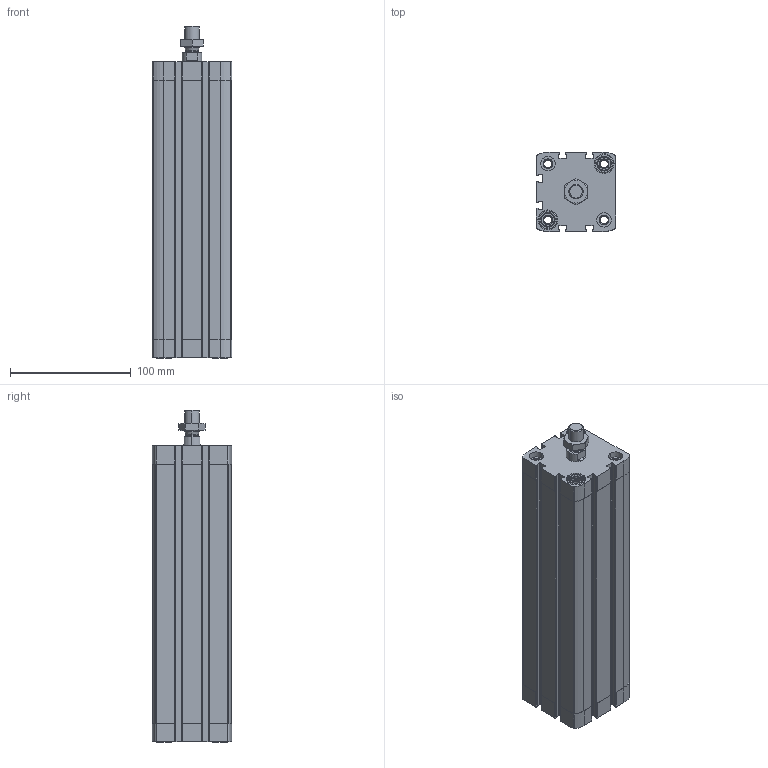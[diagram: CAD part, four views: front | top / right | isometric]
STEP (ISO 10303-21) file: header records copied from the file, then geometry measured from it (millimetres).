
FILE_DESCRIPTION (( 'STEP AP203' ), '1' );
FILE_NAME ('CCN50-200M.STEP', '2017-04-05T13:43:39', ( '' ), ( '' ), 'SwSTEP 2.0', 'SolidWorks 2016', '' );
FILE_SCHEMA (( 'CONFIG_CONTROL_DESIGN' ));
Length unit declared in the file: millimetre
Products named in the file (4): CCN-200----(Z); CCN-200_(KS); _DIN-439-B - M12x1.25(F); CCN50-200M
Assembly tree (3 placements, depth 2):
  CCN50-200M
    CCN-200----(Z)
    CCN-200_(KS)
    _DIN-439-B - M12x1.25(F)
Bounding box: 65.5 x 65.5 x 274.7 mm (x, y, z)
Volume: 594708 mm3; surface area: 168701.5 mm2
Topology: 3 solids, 3 shells, 491 faces, 1328 edges, 874 vertices
Faces by surface type: plane 227, cylinder 212, cone 48, bspline 4
Entity records: 16192 total; most frequent: CARTESIAN_POINT 3159, DIRECTION 2696, ORIENTED_EDGE 2656, EDGE_CURVE 1328, AXIS2_PLACEMENT_3D 989, VERTEX_POINT 874, LINE 718, VECTOR 718
